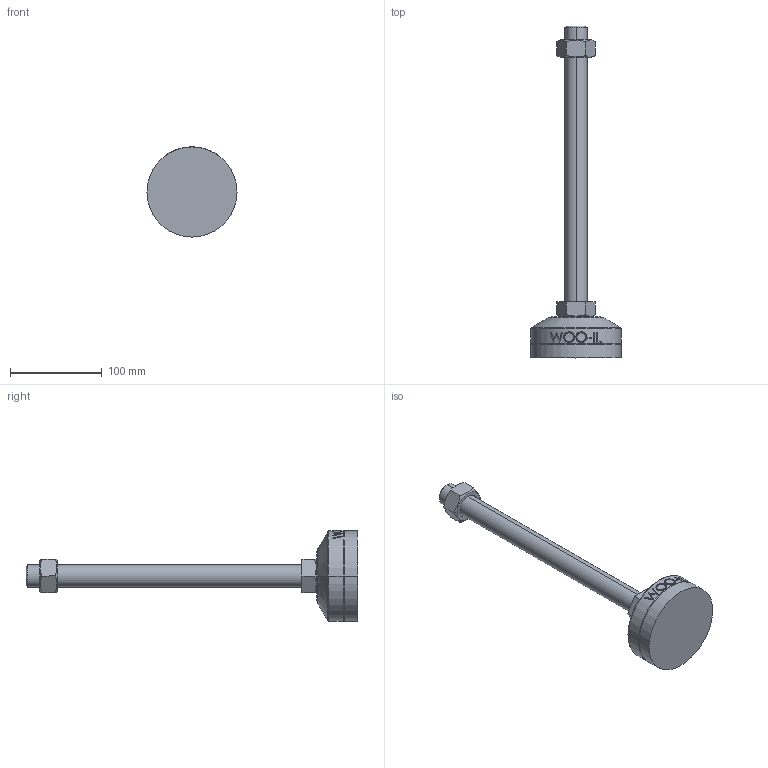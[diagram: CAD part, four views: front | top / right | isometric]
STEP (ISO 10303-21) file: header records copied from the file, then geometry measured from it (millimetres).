
FILE_DESCRIPTION (( 'STEP AP214' ), '1' );
FILE_NAME ('MFR98-M24-300.step', '2021-01-13T05:41:13', ( '' ), ( '' ), 'SwSTEP 2.0', 'SolidWorks 2019', '' );
FILE_SCHEMA (( 'AUTOMOTIVE_DESIGN' ));
Length unit declared in the file: millimetre
Products named in the file (2): MFR98-M24-300
Bounding box: 98 x 361 x 98 mm (x, y, z)
Volume: 470696.8 mm3; surface area: 72603.9 mm2
Topology: 4 solids, 4 shells, 103 faces, 235 edges, 150 vertices
Faces by surface type: plane 49, cylinder 18, bspline 16, cone 14, torus 6
Entity records: 4617 total; most frequent: CARTESIAN_POINT 2344, ORIENTED_EDGE 470, DIRECTION 417, EDGE_CURVE 235, AXIS2_PLACEMENT_3D 159, VERTEX_POINT 150, EDGE_LOOP 115, ADVANCED_FACE 103
